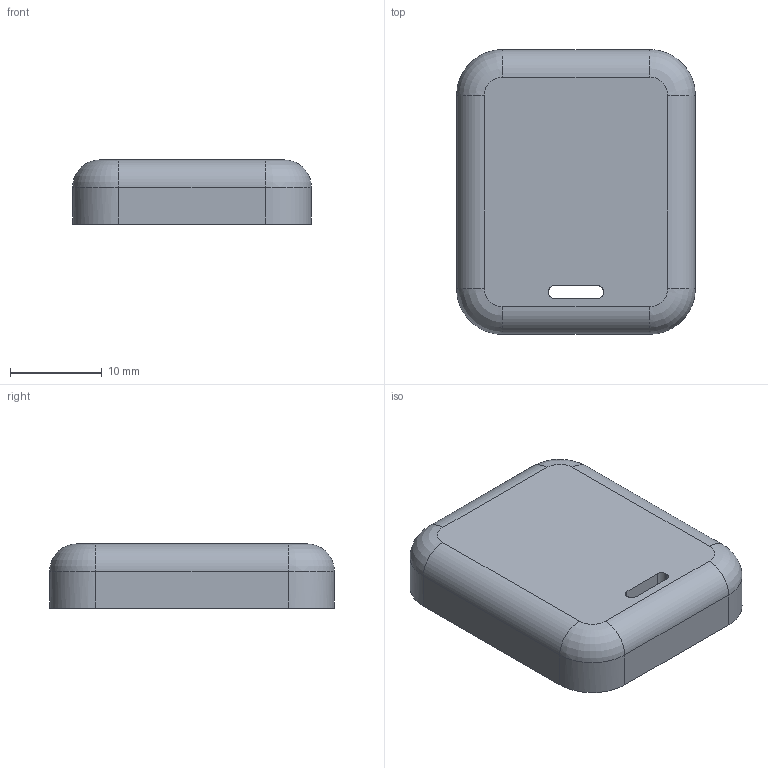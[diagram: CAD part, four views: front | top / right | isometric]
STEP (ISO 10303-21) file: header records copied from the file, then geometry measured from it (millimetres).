
FILE_DESCRIPTION(('SolidCraft model'),'2;1');
FILE_NAME('rounded_back_half_print_flat.step','',(''),(''),'SolidCraft','SolidCraft','');
FILE_SCHEMA(('AP242_MANAGED_MODEL_BASED_3D_ENGINEERING_MIM_LF { 1 0 10303 442 1 1 4 }'));
Length unit declared in the file: millimetre
Products named in the file (1): rounded_back_half_print_flat
Bounding box: 26 x 31 x 7 mm (x, y, z)
Volume: 5240 mm3; surface area: 2247 mm2
Topology: 1 solids, 1 shells, 26 faces, 64 edges, 40 vertices
Faces by surface type: cylinder 12, plane 10, revolution 4
Entity records: 713 total; most frequent: CARTESIAN_POINT 237, ORIENTED_EDGE 128, EDGE_CURVE 64, VERTEX_POINT 40, LINE 36, DIRECTION 28, EDGE_LOOP 28, FACE_BOUND 28
